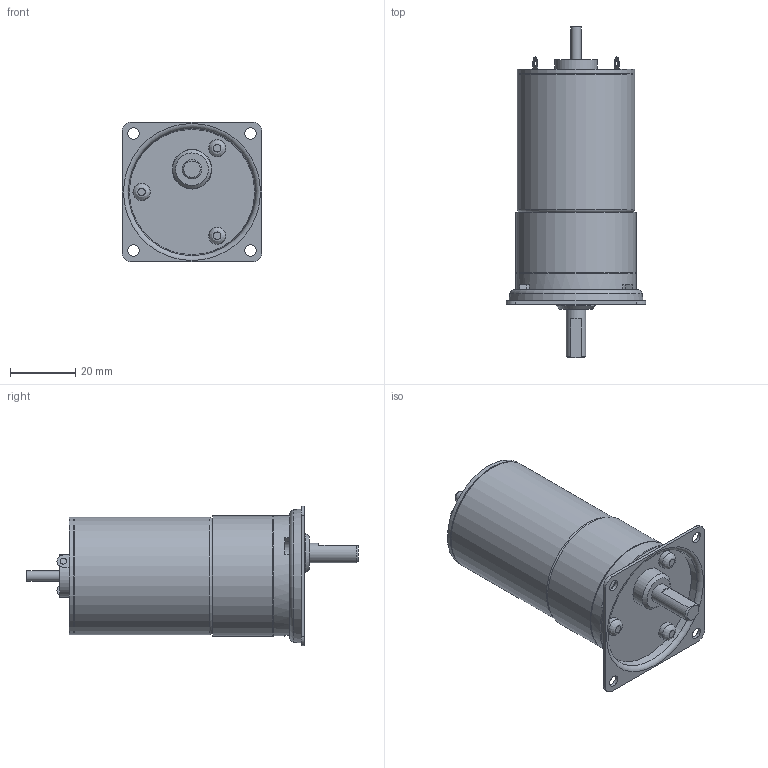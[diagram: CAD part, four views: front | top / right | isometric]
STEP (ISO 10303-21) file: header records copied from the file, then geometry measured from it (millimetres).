
FILE_DESCRIPTION((''),'2;1');
FILE_NAME('C:\Documents and Settings\SSEGAWA\デスクトップ\TP-3644L-PKS-3.STP','2013-07-26T19:08:58',('SSEGAWA'),(''),'Autodesk Inventor 2010','Autodesk Inventor 2010','');
FILE_SCHEMA(('CONFIG_CONTROL_DESIGN'));
Length unit declared in the file: millimetre
Products named in the file (1): tp_3644l_pks_3_Shrinkwrap_1
Bounding box: 43 x 102 x 43 mm (x, y, z)
Volume: 73736.5 mm3; surface area: 14901.5 mm2
Topology: 11 solids, 11 shells, 116 faces, 249 edges, 166 vertices
Faces by surface type: plane 54, cylinder 27, bspline 27, cone 4, torus 4
Full cylindrical faces by diameter (mm): 3 x1, 3.175 x1, 3.5 x1, 5.3 x3, 6 x1, 12 x1, 12.2 x1, 13 x1, 35.6 x1, 36 x2, 36.6 x1, 37 x2
Entity records: 3298 total; most frequent: CARTESIAN_POINT 968, DIRECTION 451, ORIENTED_EDGE 340, AXIS2_PLACEMENT_3D 193, EDGE_LOOP 189, EDGE_CURVE 170, VERTEX_POINT 137, STYLED_ITEM 127
